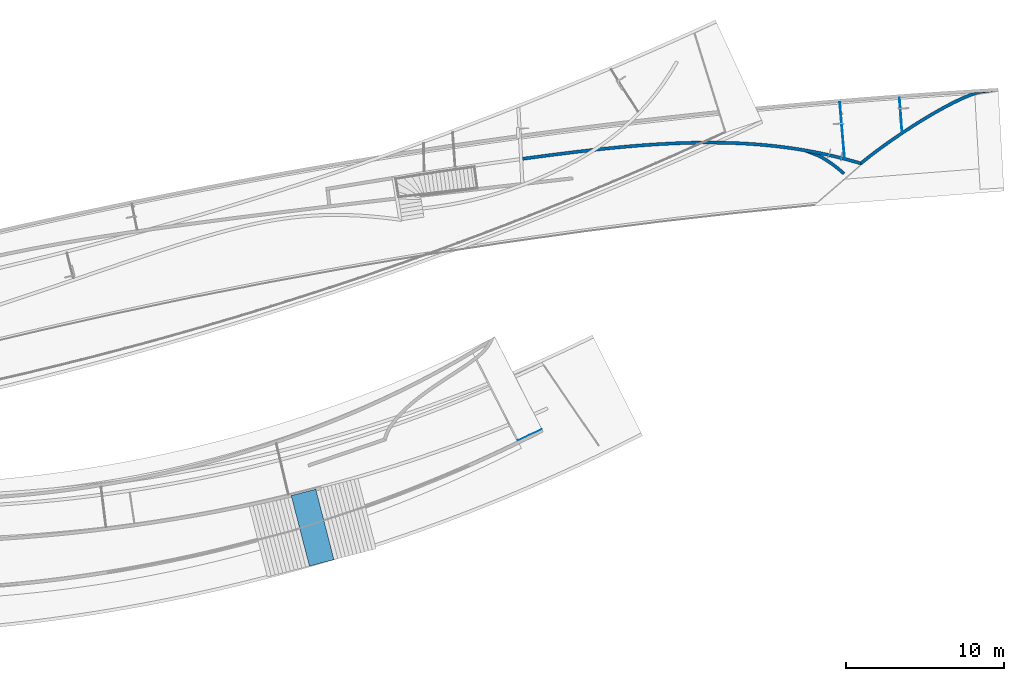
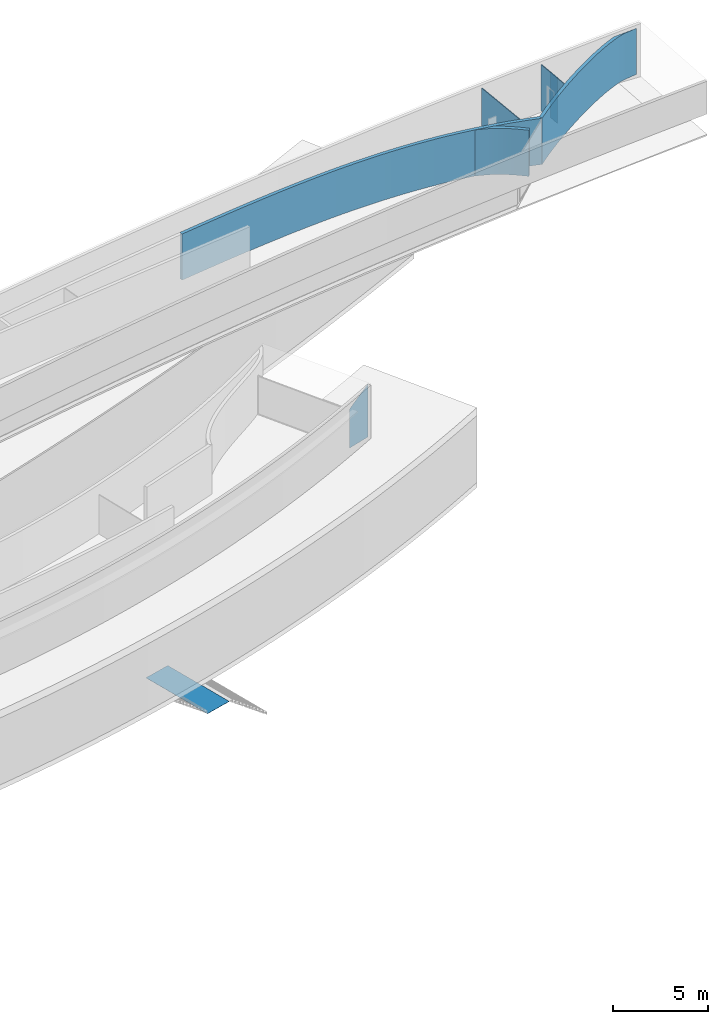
# Not in any storey, part 8 of 16: 7 walls, 1 stair.
"""IFC2X3 model written with IfcOpenShell, lengths in millimetres."""

from ifc_helpers import new_model, entity, si_unit, converted_unit, point, direction, frame, frame_2d, origin, origin_with_axes, place, context, project, spatial, polyline, circle_curve, trimmed, segment, composite_curve, outline, extrude, open_shell, faceted_brep, surface_model, material, layer, layer_set, layer_usage, type_object, element, save


model = new_model("IFC2X3")

# Units and contexts
model_context = context("Model", 3, precision=1.0, world=origin_with_axes(), true_north=direction((0.0, 1.0)))
ifc_project = project(units=[converted_unit("PLANEANGLEUNIT", "DEGREE", entity("IfcRatioMeasure", 0.017453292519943), si_unit("PLANEANGLEUNIT", "RADIAN"), dimensions=[0, 0, 0, 0, 0, 0, 0]), si_unit("LENGTHUNIT", "METRE", prefix="MILLI")], contexts=[model_context])

# Site
site_placement = place(None, origin_with_axes())
site = spatial("IfcSite", under=ifc_project, at=site_placement, Name="Site", CompositionType="ELEMENT")

# Walls
ifc_material_1 = material(Name="Wall layer 1")
ifc_layer_1 = layer(ifc_material_1, 200.0)
ifc_layer_set_1 = layer_set([ifc_layer_1], Name="HOKI 350")
ifc_layer_usage_1 = layer_usage(ifc_layer_set_1, "AXIS2", "POSITIVE", -100.0)
wall_type_1 = type_object("IfcWallType", Name="HOKI 350", PredefinedType="STANDARD", material=ifc_layer_set_1)
wall_1_placement = place(site_placement, frame((40216.7072034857, 10612.9238265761, 9850.0), z_axis=(0.0, 0.0, 1.0), x_axis=(0.933481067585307, -0.358626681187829, 0.0)))
element("IfcWallStandardCase", 1, at=wall_1_placement, inside=site, type_object=wall_type_1, material=ifc_layer_usage_1, ObjectType="HOKI 350", context=model_context, shape_type="SweptSolid", body=[
    extrude(outline(composite_curve([segment(polyline([(2138.61635159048, -678.939835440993), (2208.61885335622, -491.590830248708)]), True, "CONTINUOUS"), segment(polyline([(2208.61885335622, -491.590830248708), (1945.13144378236, -396.59526907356), (1690.41731890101, -311.790288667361), (1444.47240050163, -237.175448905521), (1207.29261037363, -172.75030966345), (978.873870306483, -118.514430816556), (867.948619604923, -95.2173265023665), (759.212102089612, -74.4673722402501), (652.663807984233, -56.2645130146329), (548.303227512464, -40.6086938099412), (446.129850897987, -27.4998596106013), (346.143168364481, -16.9379554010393)]), True, "CONTINUOUS"), segment(polyline([(346.143168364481, -16.9379554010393), (94.2415126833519, -59.6223647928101), (-157.006870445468, -104.36816726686), (-407.636820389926, -151.164374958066), (-657.683176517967, -200.000000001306)]), True, "CONTINUOUS"), segment(polyline([(-657.683176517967, -200.000000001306), (0.0, -200.0), (106.565654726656, -201.835503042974), (216.829356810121, -207.351440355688), (330.772892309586, -216.561954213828), (448.378047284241, -229.481186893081), (569.626607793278, -246.123280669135), (694.500359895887, -266.502377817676), (822.98108965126, -290.632620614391), (955.050583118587, -318.528151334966), (1090.69062635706, -350.20311225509), (1229.88300542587, -385.671645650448), (1372.60950638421, -424.947893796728), (1518.85191529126, -468.045998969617), (1668.59201820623, -514.9801034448), (1821.81160118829, -565.764349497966), (1978.49245029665, -620.412879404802), (2138.61635159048, -678.939835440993)]), True, "DISCONTINUOUS")], self_intersect="UNKNOWN")), origin_with_axes(), (0.0, 0.0, 1.0), 2950.0),
])
wall_2_placement = place(site_placement, frame((43192.7694341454, 9876.06798900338, 9850.0), z_axis=(0.0, 0.0, 1.0), x_axis=(0.773319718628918, 0.634016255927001, 0.0)))
element("IfcWallStandardCase", 2, at=wall_2_placement, inside=site, type_object=wall_type_1, material=ifc_layer_usage_1, ObjectType="HOKI 350", context=model_context, shape_type="SweptSolid", body=[
    extrude(outline(composite_curve([segment(trimmed(circle_curve(frame_2d((-215205.296778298, -310133.578247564), x_axis=(0.588629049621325, 0.808403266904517)), 381499.999997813), [point((9356.68565095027, -1727.73192525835))], [point((8198.25275373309, -887.553123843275))], True, "CARTESIAN"), True, "CONTINUOUS"), segment(polyline([(8198.25275373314, -887.553123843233), (7950.76902149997, -806.877961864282), (7673.56718857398, -725.189166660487), (7462.58102464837, -668.010102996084), (7238.09361065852, -611.125363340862), (7000.67160119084, -554.747723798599), (6750.88165083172, -499.089960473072), (6489.29041416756, -444.364849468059), (6216.46454578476, -390.785166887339), (5932.97070026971, -338.563688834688), (5639.37553220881, -287.913191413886), (5336.14652401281, -238.940243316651), (5023.3053560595, -191.625309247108), (4701.46089018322, -146.110616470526), (4371.2219882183, -102.538392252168), (4033.19751199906, -61.0508638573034), (3687.99632335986, -21.7902585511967), (3336.22728413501, 15.1011964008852), (2978.49925615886, 49.4812737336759), (2615.33015344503, 81.1805443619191), (2247.4566411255, 109.917169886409), (1875.97284519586, 135.365891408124), (1501.97289165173, 157.201450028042), (1130.19749424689, 174.924554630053), (757.599854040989, 188.322592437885), (385.675216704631, 196.858304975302), (15.9188279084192, 199.994433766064)]), True, "CONTINUOUS"), segment(polyline([(15.9188279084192, 199.994433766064), (-90.3471883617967, 5e-15)]), True, "CONTINUOUS"), segment(polyline([(-90.3471883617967, 5e-15), (0.0, 0.0), (370.923830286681, -2.92400304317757), (743.823053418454, -11.3404078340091), (1117.65088548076, -24.7158078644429), (1491.36054255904, -42.5167966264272), (1863.49504190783, -64.2393006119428), (2232.84077933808, -89.5388854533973), (2598.66267079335, -118.118767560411), (2960.2256322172, -149.682163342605), (3316.42731949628, -183.909987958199), (3666.41154349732, -220.603150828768), (4009.65531515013, -259.630442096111), (4345.63564538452, -300.860651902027), (4673.8295451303, -344.162570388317), (4993.71402531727, -389.404987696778), (5304.76609687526, -436.456693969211), (5606.46277073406, -485.186479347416), (5897.96473337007, -535.46293602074), (6178.96041078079, -587.196765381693), (6449.00751288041, -640.201314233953), (6707.6637495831, -694.289929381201), (6954.48683080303, -749.275957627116), (7189.03446645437, -804.972745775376), (7410.8643664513, -861.193640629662), (7619.534240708, -917.751988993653), (7813.6284368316, -974.096525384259), (7992.65771053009, -1029.82860858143), (8156.298467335, -1084.63390379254), (8304.2271127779, -1138.19807622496), (8434.45345475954, -1189.53862085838), (8546.29497001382, -1238.09049416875), (8638.88202124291, -1283.21891646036), (8711.34497114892, -1324.28910803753), (9356.68565095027, -1727.73192525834)]), True, "CONTINUOUS")], self_intersect="UNKNOWN")), origin_with_axes(), (0.0, 0.0, 1.0), 2950.0),
])
wall_3_placement = place(site_placement, frame((21484.4281809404, 10188.364003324, 9850.0), z_axis=(0.0, 0.0, 1.0), x_axis=(0.990630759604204, 0.136567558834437, 0.0)))
element("IfcWallStandardCase", 3, at=wall_3_placement, inside=site, type_object=wall_type_1, material=ifc_layer_usage_1, ObjectType="HOKI 350", context=model_context, shape_type="SweptSolid", body=[
    extrude(outline(composite_curve([segment(polyline([(21385.2656156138, -3321.22850887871), (21371.384218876, -3095.18084448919)]), True, "CONTINUOUS"), segment(polyline([(21371.384218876, -3095.18084448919), (21078.1194147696, -2964.21389400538), (20784.5823763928, -2836.82231297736), (20490.7286321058, -2712.95764128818), (20196.5137102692, -2592.5714188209), (19901.8931392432, -2475.61518545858), (19606.8224473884, -2362.04048108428), (19311.257163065, -2251.79884558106), (19015.1528146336, -2144.84181883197), (18718.4649304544, -2041.12094072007), (18421.149038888, -1940.58775112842), (18123.1606682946, -1843.19378994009), (17824.4553470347, -1748.89059703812), (17524.9886034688, -1657.62971230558), (17224.7159659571, -1569.36267562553), (16923.5929628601, -1484.04102688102), (16621.5751225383, -1401.61630595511), (16318.6179733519, -1322.04005273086), (16014.6770436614, -1245.26380709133), (15709.7078618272, -1171.23910891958), (15403.6659562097, -1099.91749809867), (15096.5068551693, -1031.25051451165), (14788.1860870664, -965.18969804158), (14478.6591802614, -901.686588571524), (14167.8816631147, -840.692725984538), (13855.8090639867, -782.159650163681), (13542.3969112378, -726.03890099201), (13227.6007332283, -672.282018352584), (12911.3760583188, -620.840542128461), (12593.6784148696, -571.666012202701), (12274.463331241, -524.709968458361), (11953.6863357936, -479.9239507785), (11631.3029568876, -437.259499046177), (11302.3119587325, -396.063212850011), (10971.5709522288, -356.949927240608), (10639.0324400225, -319.868806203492), (10304.6489247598, -284.769013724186), (9968.37290908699, -251.599713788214), (9630.15689565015, -220.310070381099), (8947.71488606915, -163.166409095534), (8256.94291718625, -112.93134175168), (7557.46101017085, -69.1981802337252), (6848.88918619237, -31.5602364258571), (6130.84746642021, 0.389177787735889), (5402.95587202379, 27.0567505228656), (4664.83442417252, 48.8491698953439), (3916.1031440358, 66.1731240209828), (3156.38205278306, 79.435301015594), (2385.2911715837, 89.0423889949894), (1602.45052160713, 95.401076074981), (807.480124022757, 98.9180503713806), (0.0, 100.0)]), True, "CONTINUOUS"), segment(polyline([(0.0, 100.0), (0.0, -100.000000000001)]), True, "CONTINUOUS"), segment(polyline([(0.0, -100.000000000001), (806.918370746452, -101.084681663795), (1601.20068921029, -104.60741735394), (2383.22444019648, -110.971243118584), (3153.36710851, -120.579195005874), (3912.0061789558, -133.834309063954), (4659.51913633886, -151.139621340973), (5396.28346546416, -172.898167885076), (6122.67665113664, -199.51298474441), (6839.07617816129, -231.387107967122), (7545.85953134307, -268.923573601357), (8243.40419548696, -312.525417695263), (8932.08765539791, -362.595676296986), (9612.28739588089, -419.537385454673), (9949.32383533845, -450.710982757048), (10284.3809017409, -483.753581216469), (10617.5057806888, -518.715560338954), (10948.7456577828, -555.647299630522), (11278.1477186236, -594.59917859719), (11605.7591488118, -635.621576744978), (11930.0550841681, -678.54958475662), (12252.670950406, -723.624829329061), (12573.6541972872, -770.897084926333), (12893.0522745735, -820.416126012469), (13210.9126320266, -872.231727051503), (13527.2827194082, -926.393662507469), (13842.2099864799, -982.951706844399), (14155.7418830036, -1041.95563452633), (14467.9258587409, -1103.45522001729), (14778.8093634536, -1167.50023778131), (15088.4398469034, -1234.14046228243), (15396.8647588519, -1303.42566798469), (15704.131549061, -1375.4056293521), (16010.2876672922, -1450.13012084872), (16315.3805633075, -1527.64891693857), (16619.4576868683, -1608.01179208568), (16922.5664877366, -1691.26852075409), (17224.7544156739, -1777.46887740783), (17526.0689204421, -1866.66263651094), (17826.5574518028, -1958.89957252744), (18126.2674595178, -2054.22945992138), (18425.2463933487, -2152.70207315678), (18723.5417030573, -2254.36718669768), (19021.2008384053, -2359.27457500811), (19318.2712491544, -2467.47401255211), (19614.8003850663, -2579.01527379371), (19910.8356959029, -2693.94813319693), (20206.4246314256, -2812.32236522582), (20501.6146413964, -2934.18774434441), (20796.4531755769, -3059.59404501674), (21090.9876837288, -3188.59104170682), (21385.2656156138, -3321.22850887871)]), True, "CONTINUOUS")], self_intersect="UNKNOWN")), origin_with_axes(), (0.0, 0.0, 1.0), 2950.0),
])
ifc_material_2 = material(Name="Wall layer 1")
ifc_layer_2 = layer(ifc_material_2, 50.0)
ifc_layer_set_2 = layer_set([ifc_layer_2], Name="HOKI 50mm")
ifc_layer_usage_2 = layer_usage(ifc_layer_set_2, "AXIS2", "POSITIVE", -25.0)
wall_type_2 = type_object("IfcWallType", Name="HOKI 50mm", PredefinedType="STANDARD", material=ifc_layer_set_2)
wall_4_placement = place(site_placement, frame((45633.6885221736, 13293.2734457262, 9850.0), z_axis=(0.0, 0.0, 1.0), x_axis=(0.075069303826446, -0.997178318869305, 0.0)))
element("IfcWallStandardCase", 4, at=wall_4_placement, inside=site, type_object=wall_type_2, material=ifc_layer_usage_2, ObjectType="HOKI 50mm", context=model_context, shape_type="SweptSolid", body=[
    extrude(outline(polyline([(659.313751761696, -1.32984081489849), (0.0, -1.2148270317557), (0.0, 0.0), (659.313751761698, 7.276e-12), (659.313751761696, -1.32984081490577)])), origin_with_axes(), (0.0, 0.0, 1.0), 2950.0),
])
wall_5_placement = place(site_placement, frame((45700.4884967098, 11720.0491169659, 9850.0), z_axis=(0.0, 0.0, 1.0), x_axis=(-0.074895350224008, 0.997191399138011, 0.0)))
element("IfcWallStandardCase", 5, at=wall_5_placement, inside=site, type_object=wall_type_2, material=ifc_layer_usage_2, ObjectType="HOKI 50mm", context=model_context, shape_type="SweptSolid", body=[
    extrude(outline(composite_curve([segment(trimmed(circle_curve(frame_2d((-379132.617858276, 697.718859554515), x_axis=(0.999998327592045, -0.001828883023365)), 381499.992422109), [point((2366.73654021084, 1.0914e-11))], [point((2366.64181934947, -49.9999999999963))], False, "CARTESIAN"), True, "CONTINUOUS"), segment(polyline([(2366.64181934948, -49.9999999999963), (258.493235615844, -49.9999999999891)]), True, "CONTINUOUS"), segment(polyline([(258.493235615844, -49.9999999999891), (230.311576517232, 7.276e-12)]), True, "CONTINUOUS"), segment(polyline([(230.311576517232, 7.276e-12), (2366.73654021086, 1.0914e-11)]), True, "CONTINUOUS")], self_intersect="UNKNOWN")), origin_with_axes(), (0.0, 0.0, 1.0), 2950.0),
])
wall_6_placement = place(site_placement, frame((42056.9137545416, 10195.2942118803, 9850.0), z_axis=(0.0, 0.0, 1.0), x_axis=(-0.084519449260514, 0.996421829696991, 0.0)))
element("IfcWallStandardCase", 6, at=wall_6_placement, inside=site, type_object=wall_type_2, material=ifc_layer_usage_2, ObjectType="HOKI 50mm", context=model_context, shape_type="SweptSolid", body=[
    extrude(outline(composite_curve([segment(trimmed(circle_curve(frame_2d((-377896.892959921, 598.691549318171), x_axis=(0.999998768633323, -0.001569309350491)), 381500.020458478), [point((3602.65773214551, -7.276e-12))], [point((3602.57599002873, -50.0000000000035))], False, "CARTESIAN"), True, "CONTINUOUS"), segment(polyline([(3602.5759900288, -50.0000000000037), (114.893704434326, -49.9999999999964)]), True, "CONTINUOUS"), segment(polyline([(114.893704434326, -49.9999999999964), (132.494052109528, -7.276e-12)]), True, "CONTINUOUS"), segment(polyline([(132.494052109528, -7.276e-12), (3602.65773214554, -7.276e-12)]), True, "CONTINUOUS")], self_intersect="UNKNOWN")), origin_with_axes(), (0.0, 0.0, 1.0), 2950.0),
])
wall_7_placement = place(None, origin())
element("IfcWall", 7, at=wall_7_placement, inside=site, Name="edge", context=model_context, shape_type="SurfaceModel", body=[
    surface_model("IfcShellBasedSurfaceModel", [(22180.4351056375, -7222.82306952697, 9725.0), (21419.4182490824, -7580.17298228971, 9850.0), (21419.4182490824, -7580.17298228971, 12350.0), (22180.4351056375, -7222.82306952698, 12675.0), (22941.4519621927, -6865.47315676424, 13000.0), (22941.4519621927, -6865.47315676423, 9600.0)], [open_shell([[[0, 1, 2, 3, 4, 5]]])]),
])

# Stair
stair_placement = place(None, origin())
element("IfcStair", 8, at=stair_placement, inside=site, context=model_context, shape_type="Brep", body=[
    faceted_brep([(8242.33236918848, -15521.538279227, 2290.92993472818), (7092.66471844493, -11067.7232813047, 2290.92993472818), (8648.64251722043, -10666.0772000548, 2290.92993472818), (9798.31016796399, -15119.8921979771, 2290.92993472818), (8242.33236918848, -15521.538279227, 2290.92993472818), (8242.33236918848, -15521.538279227, 2300.92993472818), (7092.66471844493, -11067.7232813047, 2300.92993472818), (7092.66471844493, -11067.7232813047, 2290.92993472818), (7092.66471844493, -11067.7232813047, 2300.92993472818), (8242.33236918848, -15521.538279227, 2300.92993472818), (9798.31016796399, -15119.8921979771, 2300.92993472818), (8648.64251722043, -10666.0772000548, 2300.92993472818), (7092.66471844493, -11067.7232813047, 2290.92993472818), (7092.66471844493, -11067.7232813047, 2300.92993472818), (8648.64251722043, -10666.0772000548, 2300.92993472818), (8648.64251722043, -10666.0772000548, 2290.92993472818), (9798.31016796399, -15119.8921979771, 2290.92993472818), (9798.31016796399, -15119.8921979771, 2300.92993472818), (8242.33236918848, -15521.538279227, 2300.92993472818), (8242.33236918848, -15521.538279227, 2290.92993472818), (8648.64251722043, -10666.0772000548, 2290.92993472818), (8648.64251722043, -10666.0772000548, 2300.92993472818), (9798.31016796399, -15119.8921979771, 2300.92993472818), (9798.31016796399, -15119.8921979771, 2290.92993472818)], [[[0, 1, 2, 3]], [[4, 5, 6, 7]], [[8, 9, 10, 11]], [[12, 13, 14, 15]], [[16, 17, 18, 19]], [[20, 21, 22, 23]]]),
])

save(model, "model.ifc")
